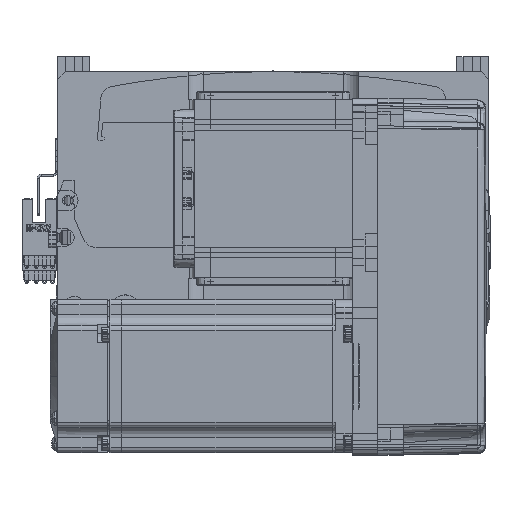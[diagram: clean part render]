
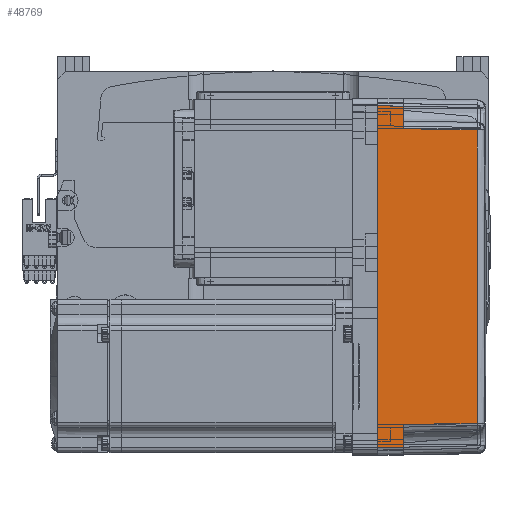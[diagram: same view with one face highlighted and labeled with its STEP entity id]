
A CAD part, top view. The second image highlights one B-rep face of the part: STEP entity #48769.
In plain terms, the highlighted planar face has unit normal (0.018, 0, 1) as drawn and (0, 1, 0.017) by its records, which use the part's own axes.
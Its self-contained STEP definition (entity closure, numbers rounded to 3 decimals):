
#648 = VERTEX_POINT ( 'NONE', #55111 ) ;
#1027 = CARTESIAN_POINT ( 'NONE',  ( -67., 36., 0. ) ) ;
#1785 = CARTESIAN_POINT ( 'NONE',  ( -58., 35.825, 10. ) ) ;
#1916 = ORIENTED_EDGE ( 'NONE', *, *, #63367, .T. ) ;
#1943 = EDGE_CURVE ( 'NONE', #33304, #648, #26902, .T. ) ;
#2537 = CARTESIAN_POINT ( 'NONE',  ( -57.495, 35.32, 38.985 ) ) ;
#2600 = VECTOR ( 'NONE', #11924, 1000. ) ;
#2970 = LINE ( 'NONE', #6248, #25032 ) ;
#5535 = EDGE_CURVE ( 'NONE', #20290, #73135, #7838, .T. ) ;
#5707 = DIRECTION ( 'NONE',  ( -0.017, -0.017, 1. ) ) ;
#6248 = CARTESIAN_POINT ( 'NONE',  ( 0., 36., 0. ) ) ;
#7169 = CARTESIAN_POINT ( 'NONE',  ( 70., 36., 0. ) ) ;
#7359 = EDGE_CURVE ( 'NONE', #648, #45322, #9437, .T. ) ;
#7403 = ORIENTED_EDGE ( 'NONE', *, *, #26169, .T. ) ;
#7838 = LINE ( 'NONE', #1027, #22839 ) ;
#9437 = LINE ( 'NONE', #64526, #32414 ) ;
#9628 = ORIENTED_EDGE ( 'NONE', *, *, #49426, .F. ) ;
#11011 = ORIENTED_EDGE ( 'NONE', *, *, #5535, .T. ) ;
#11924 = DIRECTION ( 'NONE',  ( 0.017, -0.017, 1. ) ) ;
#12395 = DIRECTION ( 'NONE',  ( 0.017, -0.017, 1. ) ) ;
#13905 = CARTESIAN_POINT ( 'NONE',  ( 67., 36., 0. ) ) ;
#15850 = CARTESIAN_POINT ( 'NONE',  ( -66.826, 35.825, 10. ) ) ;
#16214 = DIRECTION ( 'NONE',  ( 1., 0., 0. ) ) ;
#20290 = VERTEX_POINT ( 'NONE', #51943 ) ;
#22004 = CARTESIAN_POINT ( 'NONE',  ( 67.001, 36.001, -0.052 ) ) ;
#22839 = VECTOR ( 'NONE', #12395, 1000. ) ;
#23482 = CARTESIAN_POINT ( 'NONE',  ( -57.495, 35.32, 38.985 ) ) ;
#23707 = PLANE ( 'NONE',  #59413 ) ;
#25032 = VECTOR ( 'NONE', #34114, 1000. ) ;
#25421 = CARTESIAN_POINT ( 'NONE',  ( 19.165, 35.316, 39.181 ) ) ;
#26169 = EDGE_CURVE ( 'NONE', #73135, #58544, #72556, .T. ) ;
#26902 = LINE ( 'NONE', #44957, #61390 ) ;
#27758 = VECTOR ( 'NONE', #5707, 1000. ) ;
#29576 = EDGE_CURVE ( 'NONE', #71211, #33304, #60594, .T. ) ;
#31888 = ORIENTED_EDGE ( 'NONE', *, *, #29576, .T. ) ;
#32414 = VECTOR ( 'NONE', #47908, 1000. ) ;
#33304 = VERTEX_POINT ( 'NONE', #44335 ) ;
#34114 = DIRECTION ( 'NONE',  ( 1., 0., 0. ) ) ;
#35280 = ORIENTED_EDGE ( 'NONE', *, *, #7359, .T. ) ;
#38677 = CARTESIAN_POINT ( 'NONE',  ( 70., 35.825, 10. ) ) ;
#41697 = ORIENTED_EDGE ( 'NONE', *, *, #47384, .F. ) ;
#41895 = EDGE_LOOP ( 'NONE', ( #11011, #7403, #1916, #31888, #44233, #35280, #9628, #41697 ) ) ;
#44233 = ORIENTED_EDGE ( 'NONE', *, *, #1943, .T. ) ;
#44244 = DIRECTION ( 'NONE',  ( 0.017, 0.017, -1. ) ) ;
#44335 = CARTESIAN_POINT ( 'NONE',  ( 57.495, 35.32, 38.985 ) ) ;
#44555 = LINE ( 'NONE', #22004, #27758 ) ;
#44957 = CARTESIAN_POINT ( 'NONE',  ( 57.495, 35.32, 38.985 ) ) ;
#45322 = VERTEX_POINT ( 'NONE', #61727 ) ;
#46897 = VECTOR ( 'NONE', #16214, 1000. ) ;
#47384 = EDGE_CURVE ( 'NONE', #20290, #60905, #2970, .T. ) ;
#47908 = DIRECTION ( 'NONE',  ( 1., 0., 0. ) ) ;
#48769 = ADVANCED_FACE ( 'NONE', ( #61148 ), #23707, .T. ) ;
#49426 = EDGE_CURVE ( 'NONE', #60905, #45322, #44555, .T. ) ;
#51943 = CARTESIAN_POINT ( 'NONE',  ( -67., 36., 0. ) ) ;
#52361 = DIRECTION ( 'NONE',  ( 0., 1., 0.017 ) ) ;
#55111 = CARTESIAN_POINT ( 'NONE',  ( 58., 35.825, 10. ) ) ;
#58111 = DIRECTION ( 'NONE',  ( 0., -0.017, 1. ) ) ;
#58544 = VERTEX_POINT ( 'NONE', #63015 ) ;
#58618 = CARTESIAN_POINT ( 'NONE',  ( -19.165, 35.316, 39.181 ) ) ;
#59413 = AXIS2_PLACEMENT_3D ( 'NONE', #7169, #52361, #58111 ) ;
#60594 = B_SPLINE_CURVE_WITH_KNOTS ( 'NONE', 3,
 ( #23482, #58618, #25421, #64307 ),
 .UNSPECIFIED., .F., .F.,
 ( 4, 4 ),
 ( 0., 1. ),
 .UNSPECIFIED. ) ;
#60905 = VERTEX_POINT ( 'NONE', #13905 ) ;
#61148 = FACE_OUTER_BOUND ( 'NONE', #41895, .T. ) ;
#61390 = VECTOR ( 'NONE', #44244, 1000. ) ;
#61727 = CARTESIAN_POINT ( 'NONE',  ( 66.826, 35.825, 10. ) ) ;
#63015 = CARTESIAN_POINT ( 'NONE',  ( -58., 35.825, 10. ) ) ;
#63367 = EDGE_CURVE ( 'NONE', #58544, #71211, #70690, .T. ) ;
#64307 = CARTESIAN_POINT ( 'NONE',  ( 57.495, 35.32, 38.985 ) ) ;
#64526 = CARTESIAN_POINT ( 'NONE',  ( 70., 35.825, 10. ) ) ;
#70690 = LINE ( 'NONE', #1785, #2600 ) ;
#71211 = VERTEX_POINT ( 'NONE', #2537 ) ;
#72556 = LINE ( 'NONE', #38677, #46897 ) ;
#73135 = VERTEX_POINT ( 'NONE', #15850 ) ;
